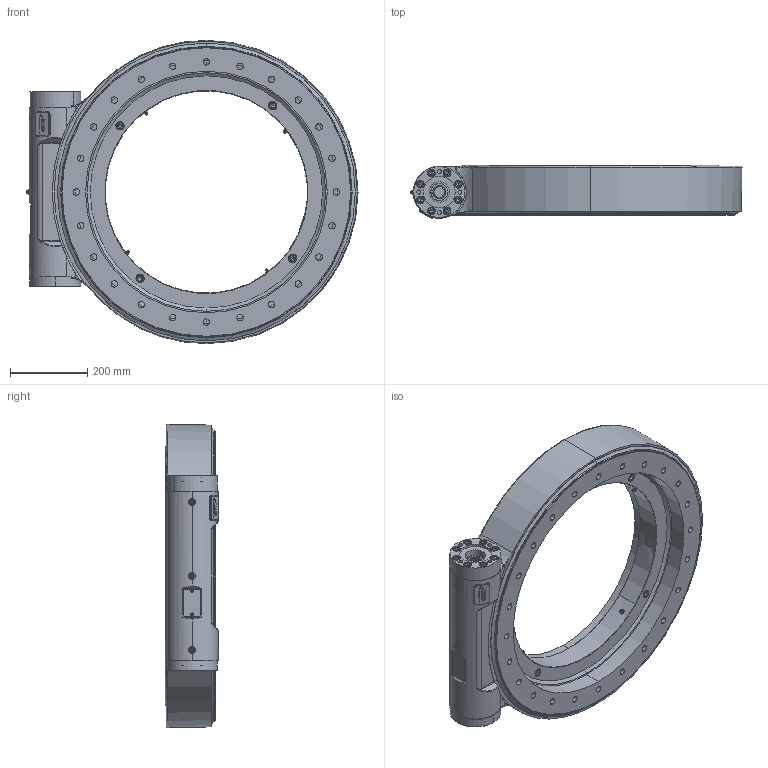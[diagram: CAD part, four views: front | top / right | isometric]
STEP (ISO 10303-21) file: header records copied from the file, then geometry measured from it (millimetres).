
FILE_DESCRIPTION (( 'STEP AP214' ), '1' );
FILE_NAME ('WD-LA 0625-3-06374_Index 00.STEP', '2011-11-25T14:29:21', ( '' ), ( '' ), 'SwSTEP 2.0', 'SolidWorks 2010', '' );
FILE_SCHEMA (( 'AUTOMOTIVE_DESIGN' ));
Length unit declared in the file: millimetre
Products named in the file (1): WD-LA 0625-3-06374_Index 00
Bounding box: 861.45 x 139.76 x 786.9 mm (x, y, z)
Surface area: 1525348.2 mm2 (no closed solid volume)
Topology: 0 solids, 57 shells, 716 faces, 2257 edges, 1510 vertices
Faces by surface type: plane 263, cylinder 238, cone 95, torus 90, bspline 30
Entity records: 34958 total; most frequent: CARTESIAN_POINT 7203, DIRECTION 4385, ORIENTED_EDGE 3593, EDGE_CURVE 2215, AXIS2_PLACEMENT_3D 1699, VERTEX_POINT 1510, CIRCLE 1012, LINE 987
